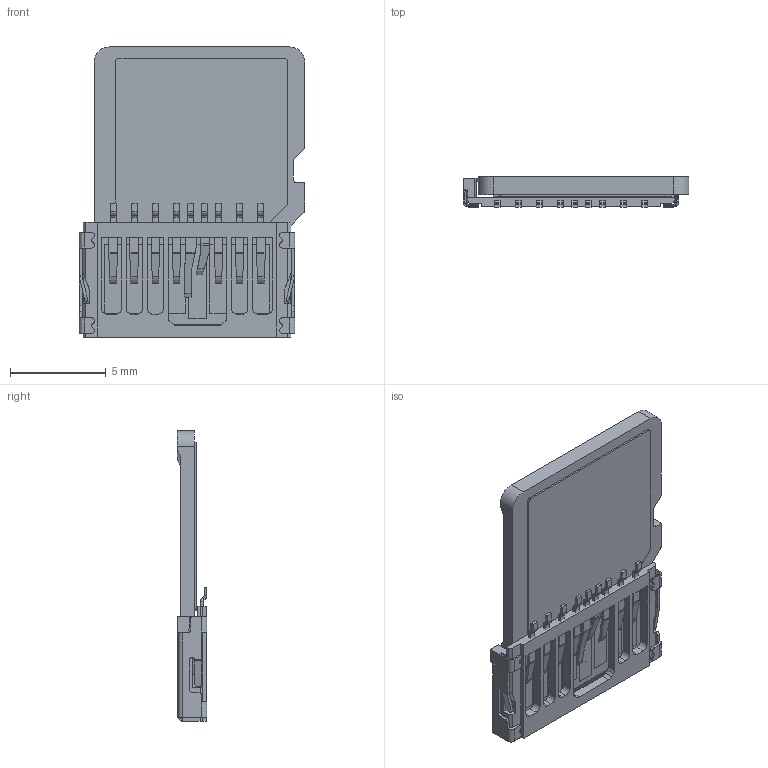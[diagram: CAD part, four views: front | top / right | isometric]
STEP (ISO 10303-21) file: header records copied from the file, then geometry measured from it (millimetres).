
FILE_DESCRIPTION((''),'2;1');
FILE_NAME('TF_1060803AR009_ASM','2018-08-23T',('Administrator'),(''),'PRO/ENGINEER BY PARAMETRIC TECHNOLOGY CORPORATION, 2010280','PRO/ENGINEER BY PARAMETRIC TECHNOLOGY CORPORATION, 2010280','');
FILE_SCHEMA(('CONFIG_CONTROL_DESIGN'));
Length unit declared in the file: millimetre
Products named in the file (7): T-FLASH_H; T-FLASH_S; T-FLASH_T; T-FLASH_T1; T-FLASH_T2; T-FLASH_CARD; TF_1060803AR009_ASM
Assembly tree (12 placements, depth 2):
  TF_1060803AR009_ASM
    T-FLASH_H
    T-FLASH_S
    T-FLASH_T  x7
    T-FLASH_T1
    T-FLASH_T2
    T-FLASH_CARD
Bounding box: 11.78 x 1.56 x 15.15 mm (x, y, z)
Volume: 150.8 mm3; surface area: 689.5 mm2
Topology: 10 solids, 12 shells, 982 faces, 2337 edges, 1378 vertices
Faces by surface type: plane 650, cylinder 296, torus 22, bspline 11, cone 3
Entity records: 16824 total; most frequent: CARTESIAN_POINT 3632, ORIENTED_EDGE 2716, DIRECTION 2687, EDGE_CURVE 1367, VECTOR 983, LINE 983, AXIS2_PLACEMENT_3D 852, VERTEX_POINT 838
